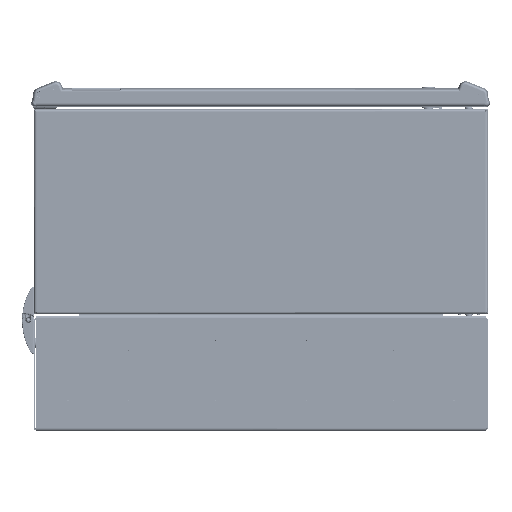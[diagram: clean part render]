
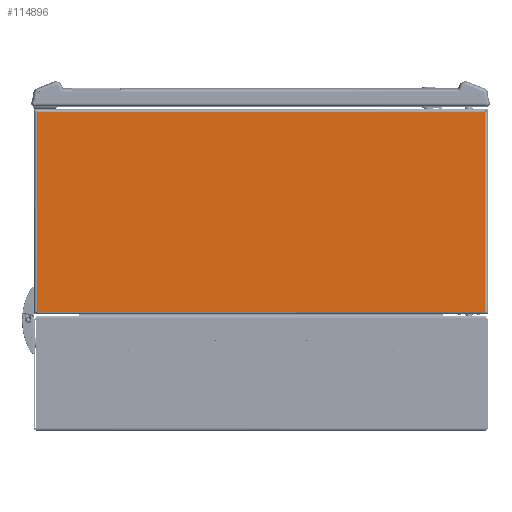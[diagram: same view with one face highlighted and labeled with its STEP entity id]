
A CAD part, front view. The second image highlights one B-rep face of the part: STEP entity #114896.
In plain terms, the highlighted planar face has unit normal (0, -1, 0) as drawn and (0, 1, 0) by its records, which use the part's own axes.
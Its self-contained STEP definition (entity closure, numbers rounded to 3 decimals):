
#4765 = VERTEX_POINT ( 'NONE', #186039 ) ;
#6763 = EDGE_CURVE ( 'NONE', #169904, #4765, #70740, .T. ) ;
#9684 = VECTOR ( 'NONE', #37920, 1000. ) ;
#10064 = CARTESIAN_POINT ( 'NONE',  ( -300., 0., 135.4 ) ) ;
#37920 = DIRECTION ( 'NONE',  ( 0., 0., -1. ) ) ;
#48854 = CARTESIAN_POINT ( 'NONE',  ( 296.647, 0., 135.4 ) ) ;
#51750 = LINE ( 'NONE', #177150, #99828 ) ;
#54723 = DIRECTION ( 'NONE',  ( -1., 0., 0. ) ) ;
#61853 = EDGE_CURVE ( 'NONE', #114858, #4765, #51750, .T. ) ;
#63178 = EDGE_LOOP ( 'NONE', ( #71468, #148310, #167748, #263817 ) ) ;
#63370 = CARTESIAN_POINT ( 'NONE',  ( -296.647, 0., 135.4 ) ) ;
#69379 = CARTESIAN_POINT ( 'NONE',  ( 296.647, 0., 132.047 ) ) ;
#70740 = LINE ( 'NONE', #63370, #9684 ) ;
#71468 = ORIENTED_EDGE ( 'NONE', *, *, #138928, .T. ) ;
#79142 = CARTESIAN_POINT ( 'NONE',  ( -296.647, 0., 132.047 ) ) ;
#82589 = AXIS2_PLACEMENT_3D ( 'NONE', #10064, #120211, #262862 ) ;
#88613 = CARTESIAN_POINT ( 'NONE',  ( -296.647, 0., 132.047 ) ) ;
#98131 = VECTOR ( 'NONE', #231265, 1000. ) ;
#99729 = PLANE ( 'NONE',  #82589 ) ;
#99828 = VECTOR ( 'NONE', #54723, 1000. ) ;
#114858 = VERTEX_POINT ( 'NONE', #172931 ) ;
#114896 = ADVANCED_FACE ( 'NONE', ( #173400 ), #99729, .T. ) ;
#120211 = DIRECTION ( 'NONE',  ( 0., 1., 0. ) ) ;
#131078 = DIRECTION ( 'NONE',  ( 0., 0., -1. ) ) ;
#138928 = EDGE_CURVE ( 'NONE', #198936, #114858, #244837, .T. ) ;
#148310 = ORIENTED_EDGE ( 'NONE', *, *, #61853, .T. ) ;
#152416 = LINE ( 'NONE', #88613, #98131 ) ;
#167748 = ORIENTED_EDGE ( 'NONE', *, *, #6763, .F. ) ;
#169904 = VERTEX_POINT ( 'NONE', #79142 ) ;
#172931 = CARTESIAN_POINT ( 'NONE',  ( 296.647, 0., -132.047 ) ) ;
#173400 = FACE_OUTER_BOUND ( 'NONE', #63178, .T. ) ;
#177150 = CARTESIAN_POINT ( 'NONE',  ( 296.647, 0., -132.047 ) ) ;
#186039 = CARTESIAN_POINT ( 'NONE',  ( -296.647, 0., -132.047 ) ) ;
#198936 = VERTEX_POINT ( 'NONE', #69379 ) ;
#231265 = DIRECTION ( 'NONE',  ( 1., 0., 0. ) ) ;
#232068 = VECTOR ( 'NONE', #131078, 1000. ) ;
#244837 = LINE ( 'NONE', #48854, #232068 ) ;
#258447 = EDGE_CURVE ( 'NONE', #169904, #198936, #152416, .T. ) ;
#262862 = DIRECTION ( 'NONE',  ( -1., 0., 0. ) ) ;
#263817 = ORIENTED_EDGE ( 'NONE', *, *, #258447, .T. ) ;
